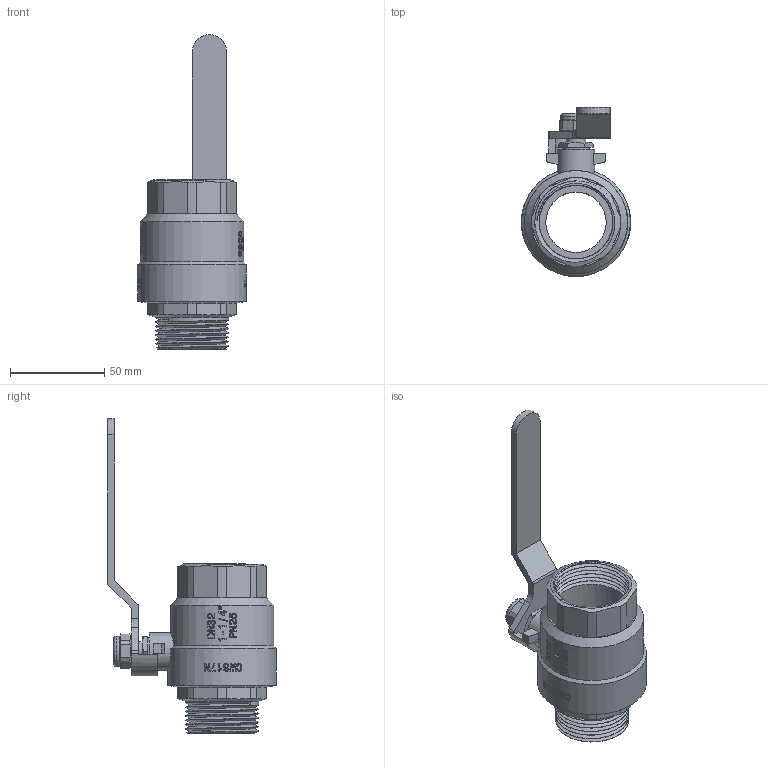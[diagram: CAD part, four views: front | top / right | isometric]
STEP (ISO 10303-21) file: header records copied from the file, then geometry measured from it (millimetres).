
FILE_DESCRIPTION(/* description */ (''),/* implementation_level */ '2;1');
FILE_NAME(/* name */ 'H:\Мишенин_3D\Исходные файлы 3D\VT.215.N.07.stp',/* time_stamp */ '2018-01-16T15:10:18+03:00',/* author */ ('MisheninAL'),/* organization */ (''),/* preprocessor_version */ 'ST-DEVELOPER v16.13',/* originating_system */ 'Autodesk Inventor 2018',/* authorisation */ '');
FILE_SCHEMA (('AUTOMOTIVE_DESIGN { 1 0 10303 214 3 1 1 }'));
Length unit declared in the file: millimetre
Products named in the file (1): VT.214_ВВ_1-3%4
Bounding box: 57.88 x 89.55 x 166.76 mm (x, y, z)
Volume: 100510.8 mm3; surface area: 39335.7 mm2
Topology: 1 solids, 1 shells, 518 faces, 1396 edges, 927 vertices
Faces by surface type: plane 244, bspline 178, cylinder 85, cone 9, torus 2
Full cylindrical faces by diameter (mm): 10.35 x1, 14.231 x1, 15.956 x1, 19.838 x1, 32 x1, 39 x6, 47.5 x1, 54.661 x1, 57.68 x1
Entity records: 23427 total; most frequent: CARTESIAN_POINT 11642, ORIENTED_EDGE 2694, DIRECTION 1977, EDGE_CURVE 1347, VERTEX_POINT 902, LINE 661, VECTOR 661, AXIS2_PLACEMENT_3D 658
